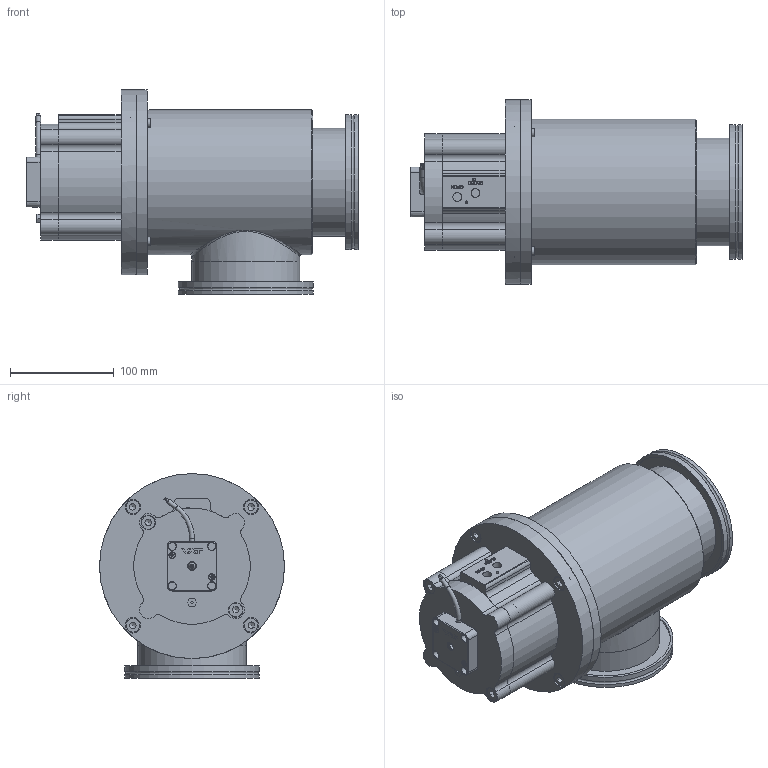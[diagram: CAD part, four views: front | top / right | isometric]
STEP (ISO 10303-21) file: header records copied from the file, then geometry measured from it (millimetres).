
FILE_DESCRIPTION(/* description */ (''),/* implementation_level */ '2;1');
FILE_NAME(/* name */ '1912870538_203.stp',/* time_stamp */ '2013-07-16T08:30:19+02:00',/* author */ (''),/* organization */ (''),/* preprocessor_version */ 'ST-DEVELOPER v11',/* originating_system */ 'SIEMENS PLM Software NX 7.5',/* authorisation */ '');
FILE_SCHEMA (('AP203_CONFIGURATION_CONTROLLED_3D_DESIGN_OF_MECHANICAL_PARTS_AND_ASSEMBLIES_MIM_LF'));
Length unit declared in the file: millimetre
Products named in the file (21): 517238; 513742; 517224; 517223; 517222; 517221; n-6121-026.2; 517625_18252ID; 421306; 233359; 236204_1.1; n-7636-200.2; 544232; 542372; 228777; 476060; 517218_MODEL; 522001_MODEL; 561077_MODEL; 421285; 563242
Assembly tree (28 placements, depth 4):
  563242
    476060
    228777  x6
    542372
    421285
      236204_1.1  x2
      233359
      421306
    561077_MODEL
      517625_18252ID
      n-6121-026.2  x2
    522001_MODEL
      517218_MODEL
        517221  x2
        517222
        517223
        517224
        513742
        517238
    544232
    n-7636-200.2
Bounding box: 319.5 x 178 x 197 mm (x, y, z)
Volume: 1143564.6 mm3; surface area: 460620.3 mm2
Topology: 36 solids, 36 shells, 792 faces, 1928 edges, 1267 vertices
Faces by surface type: plane 427, cylinder 235, cone 68, torus 22, bspline 19, extrusion 19, sphere 2
Full cylindrical faces by diameter (mm): 1.4 x4, 2.5 x5, 3 x7, 3.85 x2, 4.2 x2, 4.5 x2, 5 x1, 5.6 x2, 6.2 x2, 6.66 x6, 6.7 x6, 6.8 x8, 7.4 x1, 8 x13, 8.15 x2, 8.4 x1, 8.566 x2, 9 x8, 13 x6, 14 x2, 15 x6, 21 x1, 23.011 x2, 23.3 x1, 29.4 x1, 30 x1, 39.5 x1, 40 x1, 44.4 x1, 50 x1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
Entity records: 23655 total; most frequent: CARTESIAN_POINT 5675, DIRECTION 3146, ORIENTED_EDGE 2914, EDGE_CURVE 1457, AXIS2_PLACEMENT_3D 1208, VERTEX_POINT 1055, EDGE_LOOP 962, VECTOR 730
